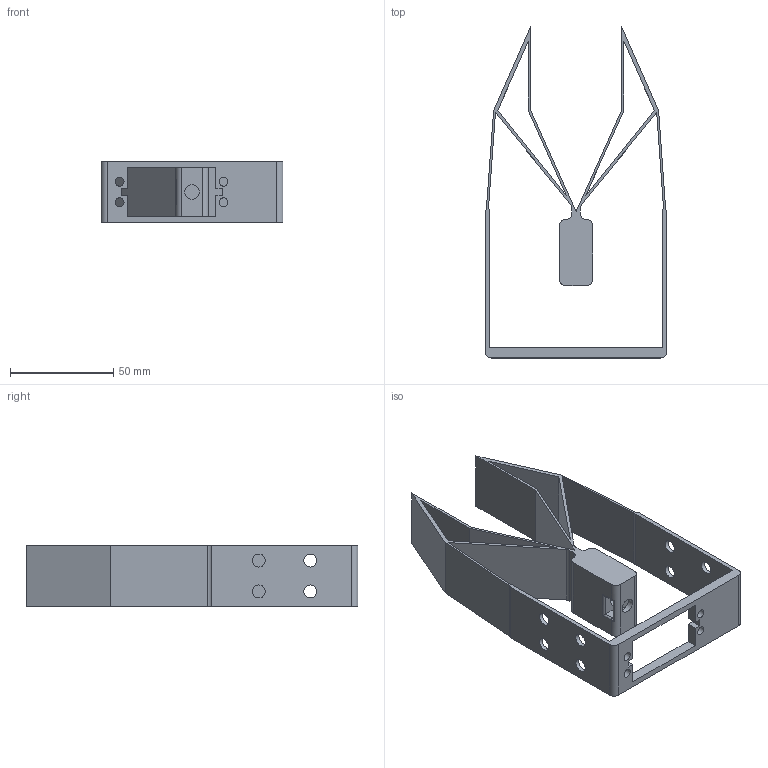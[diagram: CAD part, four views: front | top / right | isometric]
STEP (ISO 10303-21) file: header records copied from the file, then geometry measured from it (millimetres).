
FILE_DESCRIPTION(/* description */ ('STEP AP242 Edition 2','CAx-IF Rec.Pracs.---Representation and Presentation of Product Manufacturing Information (PMI)---4.0---2014-10-13','CAx-IF Rec.Pracs.---3D Tessellated Geometry---0.4---2014-09-14','2;1','CAx-IF Rec.Pracs.---User Defined Attributes---1.5---2016-08-15'),/* implementation_level */ '2;1');
FILE_NAME(/* name */ 'Assembly 1 - Part 1',/* time_stamp */ '2026-08-25T12:55:29Z',/* author */ (''),/* organization */ (''),/* preprocessor_version */ 'ST-DEVELOPER v20',/* originating_system */ 'ONSHAPE BY PTC INC, 1.219',/* authorisation */ ' ');
FILE_SCHEMA (('AP242_MANAGED_MODEL_BASED_3D_ENGINEERING_MIM_LF { 1 0 10303 442 3 1 4 }'));
Length unit declared in the file: metre
Products named in the file (1): Part 1
Bounding box: 88.21 x 160.9 x 30 mm (x, y, z)
Volume: 47861.3 mm3; surface area: 47086.2 mm2
Topology: 1 solids, 1 shells, 86 faces, 255 edges, 172 vertices
Faces by surface type: plane 52, cylinder 32, torus 2
Full cylindrical faces by diameter (mm): 4.3 x4, 6.3 x8, 7 x2
Entity records: 2827 total; most frequent: CARTESIAN_POINT 488, DIRECTION 469, ORIENTED_EDGE 462, EDGE_CURVE 231, LINE 163, VECTOR 163, VERTEX_POINT 162, AXIS2_PLACEMENT_3D 153
